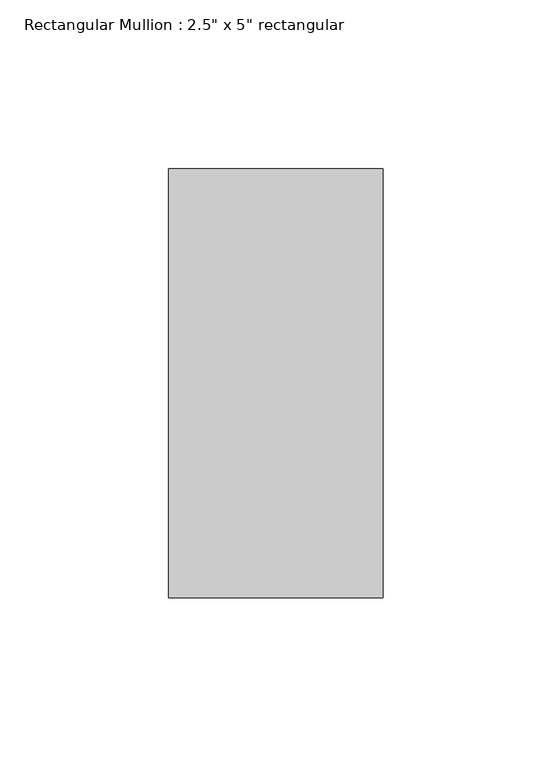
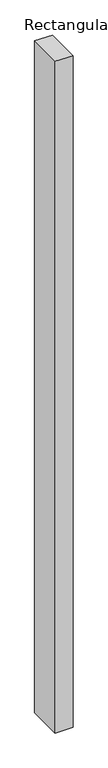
"""IFC4 building model written with IfcOpenShell, lengths in millimetres: member geometry."""

from ifc_helpers import new_model, si_unit, frame, origin, place, context, project, spatial, polyline, outline, extrude, source, transform, mapped, element, save


def member_3940caa4(model_context):
    return source(origin(), model_context, "Body", "SweptSolid", [
        extrude(outline(polyline([(0.0, 0.0), (1.264896, -63.5), (-2543.0108177, -63.5), (-2542.3183324, 0.0), (0.0, 0.0)])), frame((0.0, -63.5, 0.0), z_axis=(0.0, 1.0, 0.0), x_axis=(0.0, 0.0, 1.0)), (0.0, 0.0, 1.0), 127.0),
    ])


if __name__ == "__main__":
    model = new_model("IFC4")
    model_context = context("Model", 3, world=origin())
    ifc_project = project(units=[si_unit("LENGTHUNIT", "METRE", prefix="MILLI")], contexts=[model_context])
    site = spatial("IfcSite", under=ifc_project)
    building = spatial("IfcBuilding", under=site)
    placement = place(None, origin())
    member_shape = member_3940caa4(model_context)
    element("IfcMember", 1, ObjectType="Rectangular Mullion : 2.5\" x 5\" rectangular", at=placement, inside=building, context=model_context, shape_type="MappedRepresentation", body=[
        mapped(member_shape, transform((0.0, 0.0, 0.0), x_axis=(1.0, 0.0, 0.0), y_axis=(0.0, 1.0, 0.0), z_axis=(0.0, 0.0, 1.0))),
    ])
    save(model, "model.ifc")
